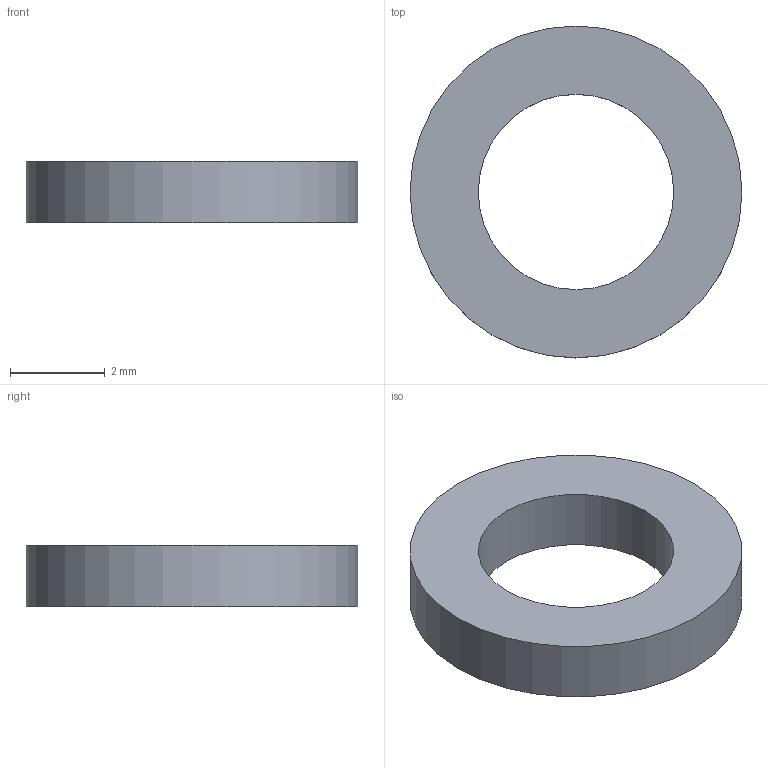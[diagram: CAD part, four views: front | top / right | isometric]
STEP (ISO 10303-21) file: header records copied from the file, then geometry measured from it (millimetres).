
FILE_DESCRIPTION(('Open CASCADE Model'),'2;1');
FILE_NAME('Open CASCADE Shape Model','2026-11-14T12:29:53',('Author'),( 'Open CASCADE'),'Open CASCADE STEP processor 8.0','Open CASCADE 8.0' ,'Unknown');
FILE_SCHEMA(('AUTOMOTIVE_DESIGN { 1 0 10303 214 1 1 1 1 }'));
Length unit declared in the file: millimetre
Products named in the file (1): Open CASCADE STEP translator 8.0 11
Bounding box: 7 x 7 x 1.3 mm (x, y, z)
Volume: 32.7 mm3; surface area: 95.7 mm2
Topology: 1 solids, 1 shells, 4 faces, 6 edges, 4 vertices
Faces by surface type: cylinder 2, plane 2
Full cylindrical faces by diameter (mm): 4.12 x1, 7 x1
Entity records: 186 total; most frequent: DIRECTION 32, CARTESIAN_POINT 27, ORIENTED_EDGE 12, PCURVE 12, DEFINITIONAL_REPRESENTATION 12, LINE 10, VECTOR 10, AXIS2_PLACEMENT_3D 9
